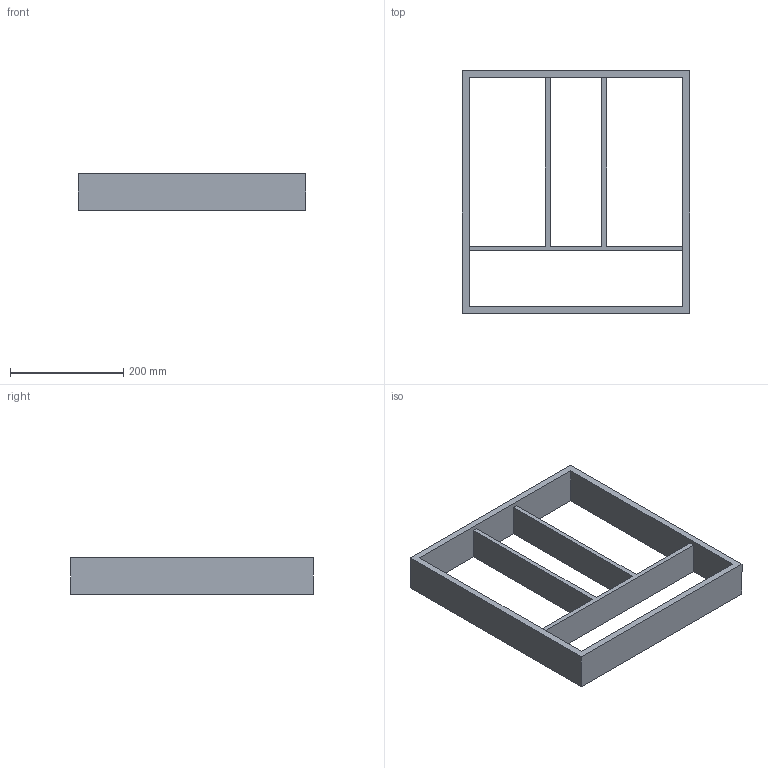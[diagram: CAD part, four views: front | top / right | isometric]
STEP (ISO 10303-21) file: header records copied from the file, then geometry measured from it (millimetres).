
FILE_DESCRIPTION (( 'STEP AP214' ), '1' );
FILE_NAME ('Vario Multi NL450_B500_19 mm_Buche.step', '2010-10-07T06:24:15', ( 'grass' ), ( '' ), 'SwSTEP 2.0', 'SolidWorks 2010', '' );
FILE_SCHEMA (( 'AUTOMOTIVE_DESIGN' ));
Length unit declared in the file: millimetre
Products named in the file (1): Vario Multi NL450_B500_19 mm_Buche
Bounding box: 402 x 429 x 65 mm (x, y, z)
Volume: 1703793.6 mm3; surface area: 372648 mm2
Topology: 1 solids, 1 shells, 19 faces, 60 edges, 40 vertices
Faces by surface type: plane 19
Entity records: 704 total; most frequent: ORIENTED_EDGE 120, CARTESIAN_POINT 120, DIRECTION 100, EDGE_CURVE 60, LINE 60, VECTOR 60, VERTEX_POINT 40, EDGE_LOOP 24
